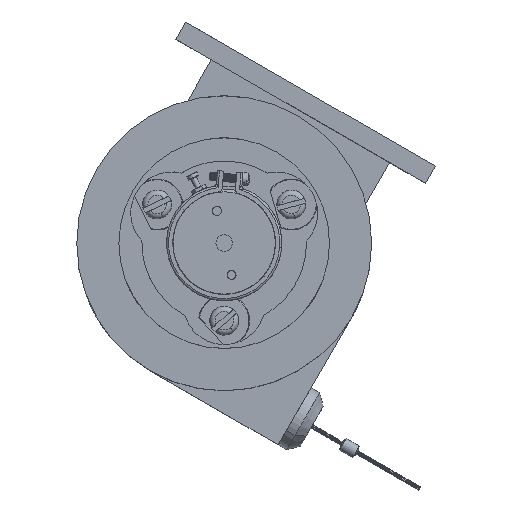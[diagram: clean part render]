
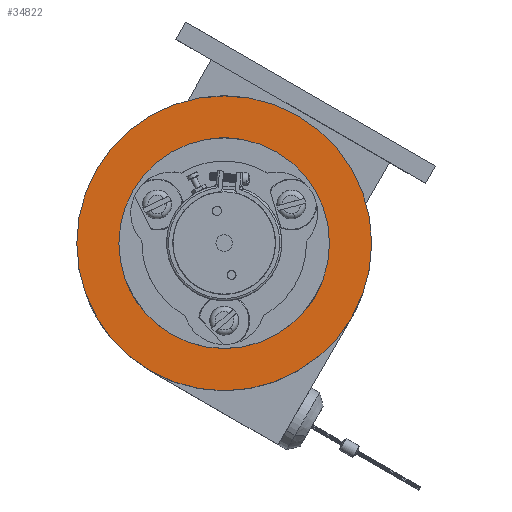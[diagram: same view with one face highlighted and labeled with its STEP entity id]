
A CAD part, top view. The second image highlights one B-rep face of the part: STEP entity #34822.
In plain terms, the highlighted planar face has unit normal (0, 0, 1).
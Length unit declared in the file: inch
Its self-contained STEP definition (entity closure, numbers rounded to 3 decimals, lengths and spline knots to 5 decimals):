
#3098 = VERTEX_POINT ( 'NONE', #32965 ) ;
#3330 = DIRECTION ( 'NONE',  ( 0., 0., 1. ) ) ;
#3858 = EDGE_CURVE ( 'NONE', #3098, #8458, #26699, .T. ) ;
#6714 = CARTESIAN_POINT ( 'NONE',  ( 0.5151, 1.1415, 2.03745 ) ) ;
#8458 = VERTEX_POINT ( 'NONE', #51583 ) ;
#9449 = AXIS2_PLACEMENT_3D ( 'NONE', #22995, #55791, #27693 ) ;
#9535 = CIRCLE ( 'NONE', #19488, 0.8 ) ;
#10510 = EDGE_CURVE ( 'NONE', #8458, #3098, #21853, .T. ) ;
#11437 = DIRECTION ( 'NONE',  ( 1., 0., 0. ) ) ;
#13510 = CARTESIAN_POINT ( 'NONE',  ( 0.5151, 1.1415, 2.03745 ) ) ;
#17505 = ORIENTED_EDGE ( 'NONE', *, *, #37497, .F. ) ;
#17788 = AXIS2_PLACEMENT_3D ( 'NONE', #55596, #55406, #55202 ) ;
#18288 = DIRECTION ( 'NONE',  ( 1., 0., 0. ) ) ;
#19488 = AXIS2_PLACEMENT_3D ( 'NONE', #13510, #46519, #18288 ) ;
#20294 = FACE_OUTER_BOUND ( 'NONE', #52544, .T. ) ;
#21804 = FACE_BOUND ( 'NONE', #54521, .T. ) ;
#21853 = CIRCLE ( 'NONE', #30543, 1.12 ) ;
#22995 = CARTESIAN_POINT ( 'NONE',  ( 0.5151, 1.9415, 2.03745 ) ) ;
#25074 = ORIENTED_EDGE ( 'NONE', *, *, #10510, .T. ) ;
#26699 = CIRCLE ( 'NONE', #17788, 1.12 ) ;
#27670 = EDGE_CURVE ( 'NONE', #44422, #56533, #50658, .T. ) ;
#27693 = DIRECTION ( 'NONE',  ( -1., 0., 0. ) ) ;
#29418 = AXIS2_PLACEMENT_3D ( 'NONE', #6714, #39730, #11437 ) ;
#30543 = AXIS2_PLACEMENT_3D ( 'NONE', #31638, #3330, #36338 ) ;
#31638 = CARTESIAN_POINT ( 'NONE',  ( 0.5151, 1.1415, 2.03745 ) ) ;
#32965 = CARTESIAN_POINT ( 'NONE',  ( -0.6049, 1.1415, 2.03745 ) ) ;
#33733 = ORIENTED_EDGE ( 'NONE', *, *, #27670, .F. ) ;
#34822 = ADVANCED_FACE ( 'NONE', ( #21804, #20294 ), #52305, .F. ) ;
#36338 = DIRECTION ( 'NONE',  ( 1., 0., 0. ) ) ;
#37497 = EDGE_CURVE ( 'NONE', #56533, #44422, #9535, .T. ) ;
#39730 = DIRECTION ( 'NONE',  ( 0., 0., 1. ) ) ;
#40661 = CARTESIAN_POINT ( 'NONE',  ( 1.3151, 1.1415, 2.03745 ) ) ;
#44422 = VERTEX_POINT ( 'NONE', #40661 ) ;
#46519 = DIRECTION ( 'NONE',  ( 0., 0., 1. ) ) ;
#47230 = ORIENTED_EDGE ( 'NONE', *, *, #3858, .T. ) ;
#50658 = CIRCLE ( 'NONE', #29418, 0.8 ) ;
#51583 = CARTESIAN_POINT ( 'NONE',  ( 1.6351, 1.1415, 2.03745 ) ) ;
#52305 = PLANE ( 'NONE',  #9449 ) ;
#52544 = EDGE_LOOP ( 'NONE', ( #25074, #47230 ) ) ;
#54521 = EDGE_LOOP ( 'NONE', ( #33733, #17505 ) ) ;
#55202 = DIRECTION ( 'NONE',  ( 1., 0., 0. ) ) ;
#55406 = DIRECTION ( 'NONE',  ( 0., 0., 1. ) ) ;
#55596 = CARTESIAN_POINT ( 'NONE',  ( 0.5151, 1.1415, 2.03745 ) ) ;
#55791 = DIRECTION ( 'NONE',  ( 0., 0., -1. ) ) ;
#56533 = VERTEX_POINT ( 'NONE', #60176 ) ;
#60176 = CARTESIAN_POINT ( 'NONE',  ( -0.2849, 1.1415, 2.03745 ) ) ;
